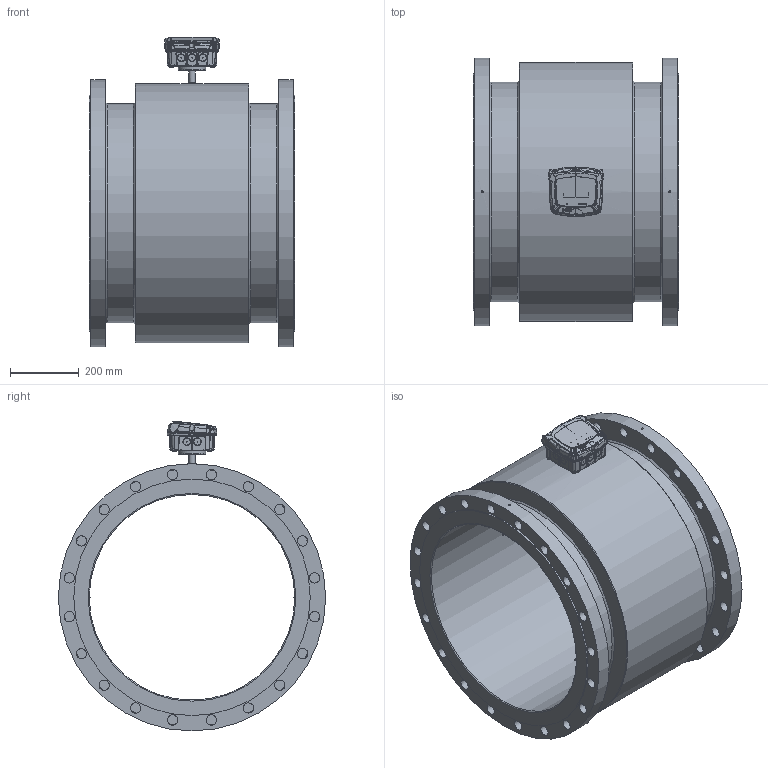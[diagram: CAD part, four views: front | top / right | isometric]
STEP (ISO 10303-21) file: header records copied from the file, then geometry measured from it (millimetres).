
FILE_DESCRIPTION((''),'2;1');
FILE_NAME('C:\Users\Claus\Dropbox\Projects 2011 - 2012\MJK Automation AS\DN 600 - DIN EN-1095-1.stp','2014-10-24T15:10:42',('Claus'),(''),'Autodesk Inventor 2013','Autodesk Inventor 2013','');
FILE_SCHEMA(('AUTOMOTIVE_DESIGN { 1 0 10303 214 1 1 1 1 }'));
Length unit declared in the file: millimetre
Products named in the file (7): DN 600 - DIN EN-1095-1; FC_MagFlux_assembly_r1; CH Bund ml; FC Top rev 06.04; CH 03.02; Electrode group DN15 - DN32
Assembly tree (8 placements, depth 3):
  DN 600 - DIN EN-1095-1
    DN 600 - DIN EN-1095-1
    FC_MagFlux_assembly_r1
      CH Bund ml
      FC Top rev 06.04
      CH 03.02
    Electrode group DN15 - DN32  x3
Bounding box: 600 x 780 x 904.34 mm (x, y, z)
Volume: 78507715.6 mm3; surface area: 3774934.9 mm2
Topology: 10 solids, 10 shells, 2959 faces, 8066 edges, 5251 vertices
Faces by surface type: bspline 1752, plane 810, cylinder 234, cone 123, torus 25, revolution 9, sphere 6
Full cylindrical faces by diameter (mm): 2.5 x3, 3 x6, 4 x1, 6 x2, 6.5 x4, 7.042 x4, 8 x3, 8.048 x4, 12.072 x4, 15 x1, 18 x1, 18.108 x1, 30 x40, 64 x1, 600 x1, 640 x2, 690 x2, 756 x1, 780 x2
Entity records: 234882 total; most frequent: CARTESIAN_POINT 171690, ORIENTED_EDGE 15592, DIRECTION 7901, EDGE_CURVE 7796, VERTEX_POINT 5189, EDGE_LOOP 3369, VECTOR 3112, LINE 3112
